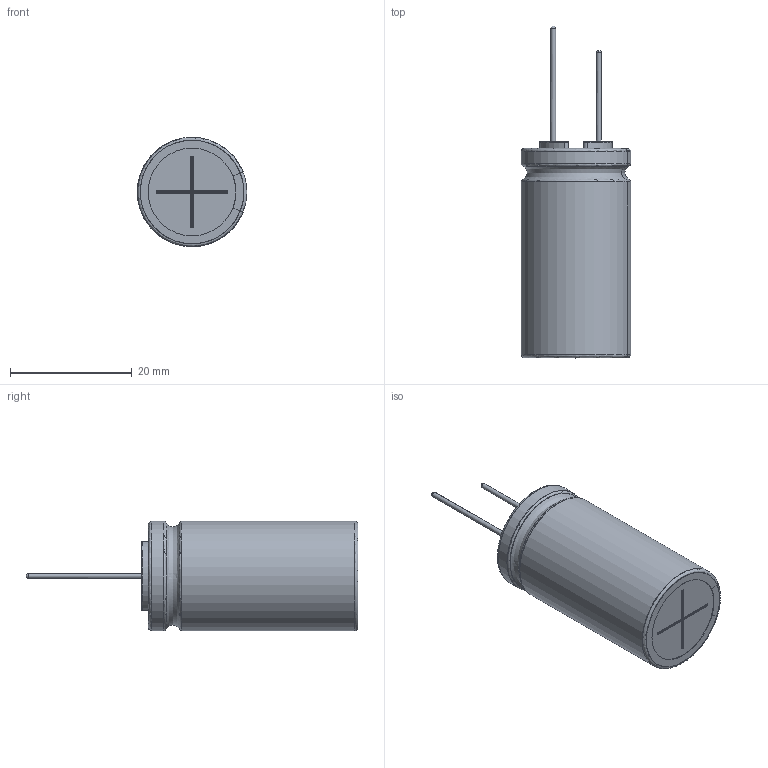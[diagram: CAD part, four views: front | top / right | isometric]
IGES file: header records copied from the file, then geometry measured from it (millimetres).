
Start section: JAMA-IS VERSION  1.0
Bounding box: 17.97 x 54.5 x 18 mm (x, y, z)
Surface area: 6859.3 mm2 (no closed solid volume)
Topology: 0 solids, 0 shells, 132 faces, 1531 edges, 1512 vertices
Faces by surface type: bspline 132
